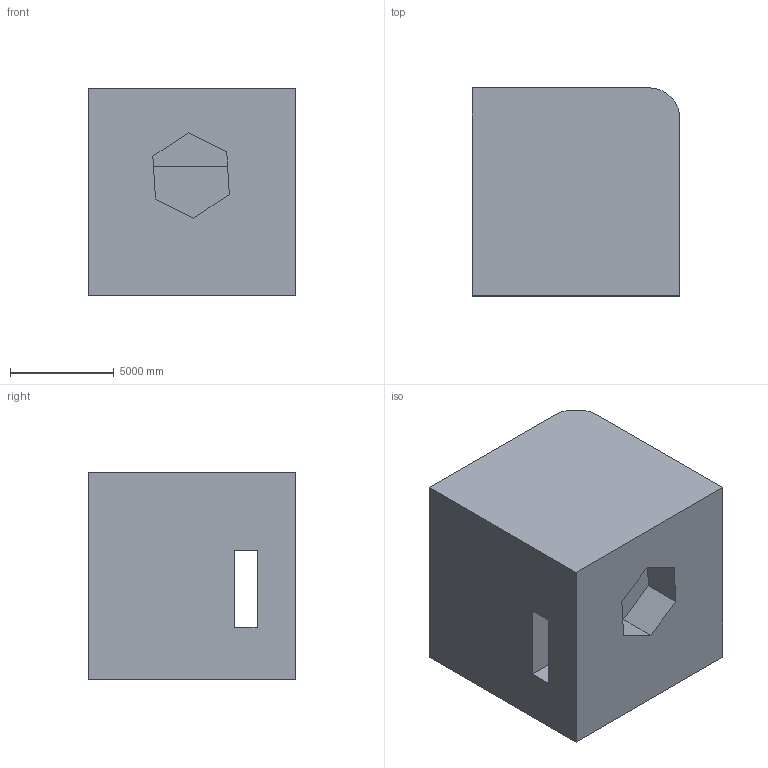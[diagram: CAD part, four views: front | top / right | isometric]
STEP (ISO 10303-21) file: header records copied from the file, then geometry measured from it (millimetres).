
FILE_DESCRIPTION (( 'STEP AP203' ), '1' );
FILE_NAME ('1365.STEP', '2022-08-18T14:03:47', ( 'user' ), ( '' ), 'SwSTEP 2.0', 'SolidWorks 2021', '' );
FILE_SCHEMA (( 'CONFIG_CONTROL_DESIGN' ));
Length unit declared in the file: centimetre
Products named in the file (1): 1365
Bounding box: 10000 x 10000 x 10000 mm (x, y, z)
Volume: 848067546348.2 mm3; surface area: 766527603 mm2
Topology: 1 solids, 1 shells, 21 faces, 60 edges, 40 vertices
Faces by surface type: plane 18, cylinder 3
Entity records: 850 total; most frequent: CARTESIAN_POINT 208, ORIENTED_EDGE 120, DIRECTION 110, EDGE_CURVE 60, VECTOR 52, LINE 52, VERTEX_POINT 40, AXIS2_PLACEMENT_3D 29
